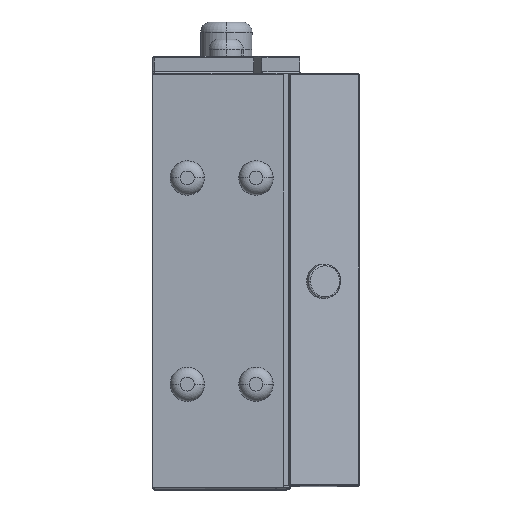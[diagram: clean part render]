
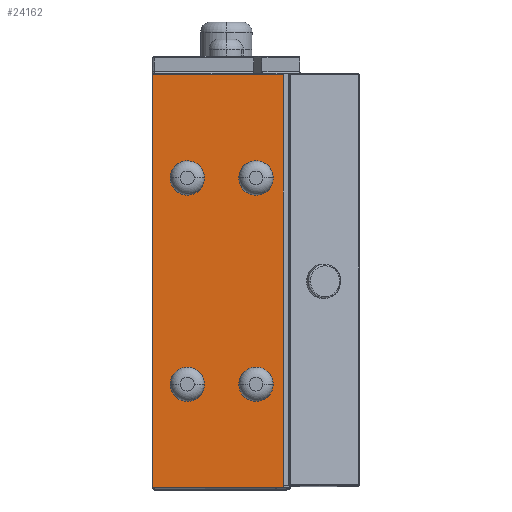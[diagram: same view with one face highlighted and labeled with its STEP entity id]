
A CAD part, top view. The second image highlights one B-rep face of the part: STEP entity #24162.
In plain terms, the highlighted planar face has unit normal (0, 0, 1).
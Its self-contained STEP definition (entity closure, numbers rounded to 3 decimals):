
#102 = ORIENTED_EDGE ( 'NONE', *, *, #14582, .T. ) ;
#284 = AXIS2_PLACEMENT_3D ( 'NONE', #19041, #8484, #348 ) ;
#348 = DIRECTION ( 'NONE',  ( 1., 0., 0. ) ) ;
#777 = CIRCLE ( 'NONE', #28118, 5. ) ;
#799 = CARTESIAN_POINT ( 'NONE',  ( -5., -30., 77.5 ) ) ;
#1159 = LINE ( 'NONE', #35493, #30294 ) ;
#1284 = AXIS2_PLACEMENT_3D ( 'NONE', #30191, #30304, #10904 ) ;
#1685 = EDGE_LOOP ( 'NONE', ( #2722, #6640 ) ) ;
#2535 = CARTESIAN_POINT ( 'NONE',  ( 0., -30., 77.5 ) ) ;
#2590 = EDGE_CURVE ( 'NONE', #34171, #10211, #777, .T. ) ;
#2630 = DIRECTION ( 'NONE',  ( -1., 0., 0. ) ) ;
#2722 = ORIENTED_EDGE ( 'NONE', *, *, #35112, .T. ) ;
#3062 = VECTOR ( 'NONE', #17064, 1000. ) ;
#3118 = AXIS2_PLACEMENT_3D ( 'NONE', #2535, #21692, #35049 ) ;
#3159 = CARTESIAN_POINT ( 'NONE',  ( 7.863, 60., 77.5 ) ) ;
#3298 = VERTEX_POINT ( 'NONE', #15585 ) ;
#3992 = CARTESIAN_POINT ( 'NONE',  ( -25., 30., 77.5 ) ) ;
#4133 = FACE_BOUND ( 'NONE', #15560, .T. ) ;
#4610 = AXIS2_PLACEMENT_3D ( 'NONE', #7117, #15123, #9756 ) ;
#4620 = CIRCLE ( 'NONE', #4610, 5. ) ;
#6087 = DIRECTION ( 'NONE',  ( 1., 0., 0. ) ) ;
#6131 = CIRCLE ( 'NONE', #1284, 5. ) ;
#6264 = AXIS2_PLACEMENT_3D ( 'NONE', #11336, #13838, #32921 ) ;
#6471 = CARTESIAN_POINT ( 'NONE',  ( 0., 30., 77.5 ) ) ;
#6572 = ORIENTED_EDGE ( 'NONE', *, *, #28075, .F. ) ;
#6640 = ORIENTED_EDGE ( 'NONE', *, *, #23669, .T. ) ;
#7022 = VERTEX_POINT ( 'NONE', #799 ) ;
#7117 = CARTESIAN_POINT ( 'NONE',  ( -20., -30., 77.5 ) ) ;
#8170 = EDGE_LOOP ( 'NONE', ( #28502, #35506 ) ) ;
#8484 = DIRECTION ( 'NONE',  ( 0., 0., -1. ) ) ;
#9689 = FACE_BOUND ( 'NONE', #26324, .T. ) ;
#9756 = DIRECTION ( 'NONE',  ( 1., 0., 0. ) ) ;
#10211 = VERTEX_POINT ( 'NONE', #3992 ) ;
#10904 = DIRECTION ( 'NONE',  ( 1., 0., 0. ) ) ;
#10990 = ORIENTED_EDGE ( 'NONE', *, *, #18952, .T. ) ;
#11336 = CARTESIAN_POINT ( 'NONE',  ( 13., -60., 77.5 ) ) ;
#11709 = CARTESIAN_POINT ( 'NONE',  ( -20., 30., 77.5 ) ) ;
#11882 = DIRECTION ( 'NONE',  ( 0., 1., 0. ) ) ;
#12534 = DIRECTION ( 'NONE',  ( 0., 0., -1. ) ) ;
#12540 = VERTEX_POINT ( 'NONE', #3159 ) ;
#12916 = AXIS2_PLACEMENT_3D ( 'NONE', #6471, #20115, #20352 ) ;
#13072 = ORIENTED_EDGE ( 'NONE', *, *, #26799, .T. ) ;
#13826 = DIRECTION ( 'NONE',  ( 0., 0., -1. ) ) ;
#13838 = DIRECTION ( 'NONE',  ( 0., 0., 1. ) ) ;
#14315 = CIRCLE ( 'NONE', #25276, 5. ) ;
#14408 = ORIENTED_EDGE ( 'NONE', *, *, #26573, .F. ) ;
#14530 = EDGE_CURVE ( 'NONE', #27541, #25372, #1159, .T. ) ;
#14582 = EDGE_CURVE ( 'NONE', #10211, #34171, #18714, .T. ) ;
#15123 = DIRECTION ( 'NONE',  ( 0., 0., -1. ) ) ;
#15560 = EDGE_LOOP ( 'NONE', ( #32074, #102 ) ) ;
#15585 = CARTESIAN_POINT ( 'NONE',  ( -25., -30., 77.5 ) ) ;
#15747 = CARTESIAN_POINT ( 'NONE',  ( 7.863, -60., 77.5 ) ) ;
#16713 = DIRECTION ( 'NONE',  ( 1., 0., 0. ) ) ;
#17064 = DIRECTION ( 'NONE',  ( -1., 0., 0. ) ) ;
#17818 = CARTESIAN_POINT ( 'NONE',  ( -5., 30., 77.5 ) ) ;
#18161 = CARTESIAN_POINT ( 'NONE',  ( -15., -30., 77.5 ) ) ;
#18202 = EDGE_LOOP ( 'NONE', ( #14408, #10990, #6572, #26445 ) ) ;
#18311 = EDGE_CURVE ( 'NONE', #20831, #7022, #21503, .T. ) ;
#18714 = CIRCLE ( 'NONE', #26814, 5. ) ;
#18952 = EDGE_CURVE ( 'NONE', #12540, #32836, #21914, .T. ) ;
#19041 = CARTESIAN_POINT ( 'NONE',  ( 0., -30., 77.5 ) ) ;
#19571 = CARTESIAN_POINT ( 'NONE',  ( 13., 60., 77.5 ) ) ;
#19714 = DIRECTION ( 'NONE',  ( 0., 0., -1. ) ) ;
#20115 = DIRECTION ( 'NONE',  ( 0., 0., -1. ) ) ;
#20352 = DIRECTION ( 'NONE',  ( 1., 0., 0. ) ) ;
#20831 = VERTEX_POINT ( 'NONE', #30685 ) ;
#21503 = CIRCLE ( 'NONE', #284, 5. ) ;
#21557 = LINE ( 'NONE', #33227, #32291 ) ;
#21692 = DIRECTION ( 'NONE',  ( 0., 0., -1. ) ) ;
#21914 = LINE ( 'NONE', #19571, #3062 ) ;
#22101 = EDGE_CURVE ( 'NONE', #3298, #34991, #4620, .T. ) ;
#23669 = EDGE_CURVE ( 'NONE', #23730, #27762, #31147, .T. ) ;
#23730 = VERTEX_POINT ( 'NONE', #17818 ) ;
#24162 = ADVANCED_FACE ( 'NONE', ( #33719, #9689, #4133, #34170, #30695 ), #30495, .T. ) ;
#24420 = CARTESIAN_POINT ( 'NONE',  ( -30., -60., 77.5 ) ) ;
#24888 = VECTOR ( 'NONE', #11882, 1000. ) ;
#25276 = AXIS2_PLACEMENT_3D ( 'NONE', #27608, #13826, #16713 ) ;
#25285 = DIRECTION ( 'NONE',  ( 0., -1., 0. ) ) ;
#25372 = VERTEX_POINT ( 'NONE', #24420 ) ;
#26324 = EDGE_LOOP ( 'NONE', ( #32271, #13072 ) ) ;
#26397 = DIRECTION ( 'NONE',  ( 1., 0., 0. ) ) ;
#26445 = ORIENTED_EDGE ( 'NONE', *, *, #14530, .F. ) ;
#26573 = EDGE_CURVE ( 'NONE', #12540, #27541, #21557, .T. ) ;
#26799 = EDGE_CURVE ( 'NONE', #7022, #20831, #29698, .T. ) ;
#26814 = AXIS2_PLACEMENT_3D ( 'NONE', #11709, #19714, #6087 ) ;
#26915 = EDGE_CURVE ( 'NONE', #34991, #3298, #6131, .T. ) ;
#27212 = CARTESIAN_POINT ( 'NONE',  ( -15., 30., 77.5 ) ) ;
#27541 = VERTEX_POINT ( 'NONE', #15747 ) ;
#27608 = CARTESIAN_POINT ( 'NONE',  ( 0., 30., 77.5 ) ) ;
#27762 = VERTEX_POINT ( 'NONE', #33362 ) ;
#27814 = CARTESIAN_POINT ( 'NONE',  ( -30., 60., 77.5 ) ) ;
#28075 = EDGE_CURVE ( 'NONE', #25372, #32836, #28769, .T. ) ;
#28118 = AXIS2_PLACEMENT_3D ( 'NONE', #28918, #12534, #26397 ) ;
#28283 = CARTESIAN_POINT ( 'NONE',  ( -30., -60., 77.5 ) ) ;
#28502 = ORIENTED_EDGE ( 'NONE', *, *, #26915, .T. ) ;
#28769 = LINE ( 'NONE', #28283, #24888 ) ;
#28918 = CARTESIAN_POINT ( 'NONE',  ( -20., 30., 77.5 ) ) ;
#29698 = CIRCLE ( 'NONE', #3118, 5. ) ;
#30191 = CARTESIAN_POINT ( 'NONE',  ( -20., -30., 77.5 ) ) ;
#30294 = VECTOR ( 'NONE', #2630, 1000. ) ;
#30304 = DIRECTION ( 'NONE',  ( 0., 0., -1. ) ) ;
#30495 = PLANE ( 'NONE',  #6264 ) ;
#30685 = CARTESIAN_POINT ( 'NONE',  ( 5., -30., 77.5 ) ) ;
#30695 = FACE_BOUND ( 'NONE', #1685, .T. ) ;
#31147 = CIRCLE ( 'NONE', #12916, 5. ) ;
#32074 = ORIENTED_EDGE ( 'NONE', *, *, #2590, .T. ) ;
#32271 = ORIENTED_EDGE ( 'NONE', *, *, #18311, .T. ) ;
#32291 = VECTOR ( 'NONE', #25285, 1000. ) ;
#32836 = VERTEX_POINT ( 'NONE', #27814 ) ;
#32921 = DIRECTION ( 'NONE',  ( 1., 0., 0. ) ) ;
#33227 = CARTESIAN_POINT ( 'NONE',  ( 7.863, 677.189, 77.5 ) ) ;
#33362 = CARTESIAN_POINT ( 'NONE',  ( 5., 30., 77.5 ) ) ;
#33719 = FACE_OUTER_BOUND ( 'NONE', #18202, .T. ) ;
#34170 = FACE_BOUND ( 'NONE', #8170, .T. ) ;
#34171 = VERTEX_POINT ( 'NONE', #27212 ) ;
#34991 = VERTEX_POINT ( 'NONE', #18161 ) ;
#35049 = DIRECTION ( 'NONE',  ( 1., 0., 0. ) ) ;
#35112 = EDGE_CURVE ( 'NONE', #27762, #23730, #14315, .T. ) ;
#35493 = CARTESIAN_POINT ( 'NONE',  ( 13., -60., 77.5 ) ) ;
#35506 = ORIENTED_EDGE ( 'NONE', *, *, #22101, .T. ) ;
